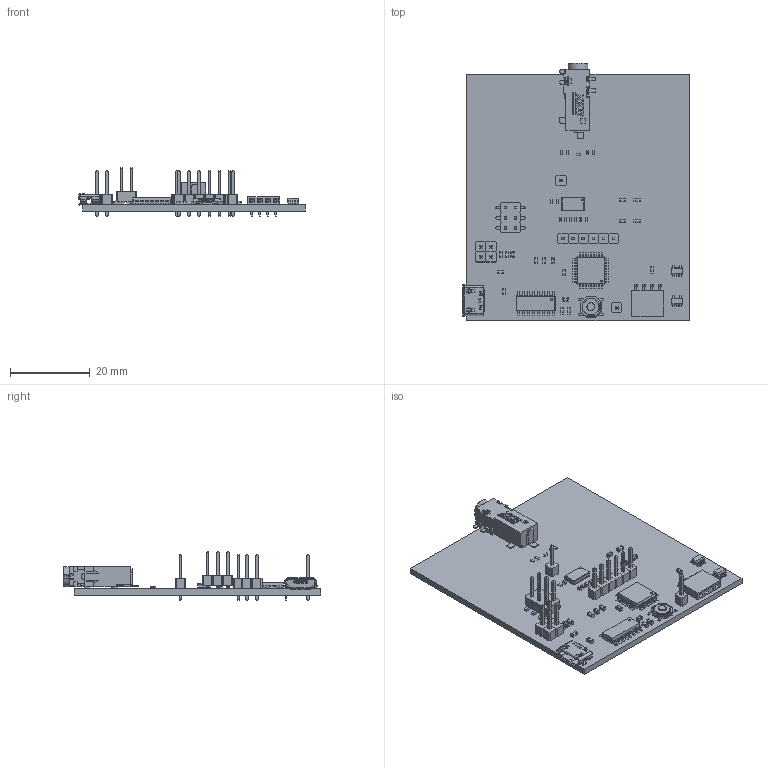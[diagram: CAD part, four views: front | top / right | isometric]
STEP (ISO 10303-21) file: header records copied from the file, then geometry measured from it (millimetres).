
FILE_DESCRIPTION(('KiCad electronic assembly'),'2;1');
FILE_NAME('RedBoard-Qwiic.step','2021-07-06T13:26:15',('An Author'),( 'A Company'),'Open CASCADE STEP processor 6.9', 'KiCad to STEP converter','Unknown');
FILE_SCHEMA(('AUTOMOTIVE_DESIGN { 1 0 10303 214 1 1 1 1 }'));
Length unit declared in the file: millimetre
Products named in the file (28): Open CASCADE STEP translator 6.9 1; PinHeader_2x03_P2.54mm_Vertical_SMD; SOLID; C_0603_1608Metric; C_0402_1005Metric; R_0402_1005Metric; PinHeader_1x01_P2.54mm_Vertical; USB-MicroB_Molex_105017; pj-328b0-smt; COMPOUND; MAX86150EFF+_; SOT-23-5; SOIC-16_3.9x9.9mm_P1.27mm; LQFP-32_7x7mm_P0.8mm; SW_SPST_TL3342; PinSocket_1x04_P2.00mm_Horizontal
Assembly tree (66 placements, depth 3):
  Open CASCADE STEP translator 6.9 1
    PinHeader_2x03_P2.54mm_Vertical_SMD
      SOLID
    C_0603_1608Metric  x17
      SOLID
    C_0402_1005Metric  x8
      SOLID
    R_0402_1005Metric  x5
      SOLID
    PinHeader_1x01_P2.54mm_Vertical  x12
      SOLID
    USB-MicroB_Molex_105017
      SOLID
    pj-328b0-smt
      COMPOUND
    MAX86150EFF+_
      COMPOUND
    SOT-23-5  x2
      SOLID
    SOIC-16_3.9x9.9mm_P1.27mm
      SOLID
    LQFP-32_7x7mm_P0.8mm
      SOLID
    SW_SPST_TL3342
      SOLID
    PinSocket_1x04_P2.00mm_Horizontal
      SOLID
    COMPOUND
Bounding box: 56.88 x 64.74 x 12.3 mm (x, y, z)
Volume: 6649.1 mm3; surface area: 10373.8 mm2
Topology: 83 solids, 86 shells, 4114 faces, 10826 edges, 7005 vertices
Faces by surface type: plane 3069, cylinder 853, bspline 178, torus 11, cone 3
Full cylindrical faces by diameter (mm): 0.5 x1, 0.6 x1, 0.8 x4, 1 x12, 1.8 x2, 2 x3
Entity records: 211279 total; most frequent: CARTESIAN_POINT 39240, DIRECTION 29449, LINE 21020, VECTOR 21020, ORIENTED_EDGE 15818, PCURVE 15818, DEFINITIONAL_REPRESENTATION 15818, EDGE_CURVE 7909
